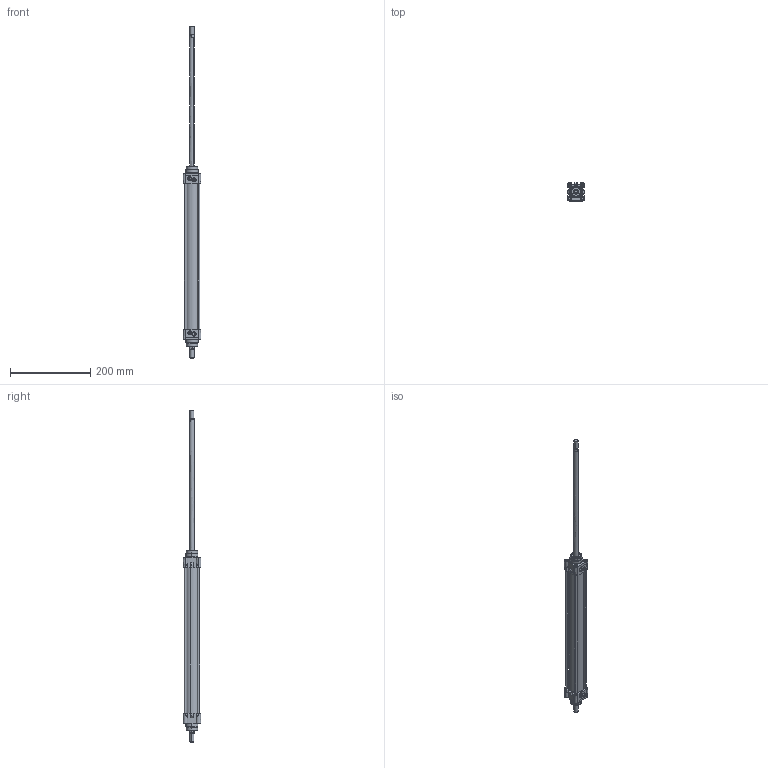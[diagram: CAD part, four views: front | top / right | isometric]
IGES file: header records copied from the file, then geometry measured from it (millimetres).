
Start section: SolidWorks IGES file using analytic representation for surfaces
Global section: file name: D:\ARICA 3D 禽Z軲LER\3D IGES\TDNC 禽FT M軱L輁TDNC32\TDNC32X320CIFTMILLI-CYLINDER.IGS; native system: SolidWorks 2013; preprocessor: SolidWorks 2013; author: user; date: 150328.095357; units: millimetre
Bounding box: 44.45 x 44.65 x 825 mm (x, y, z)
Surface area: 191977 mm2 (no closed solid volume)
Topology: 0 solids, 0 shells, 923 faces, 13446 edges, 13398 vertices
Faces by surface type: revolution 490, bspline 433
